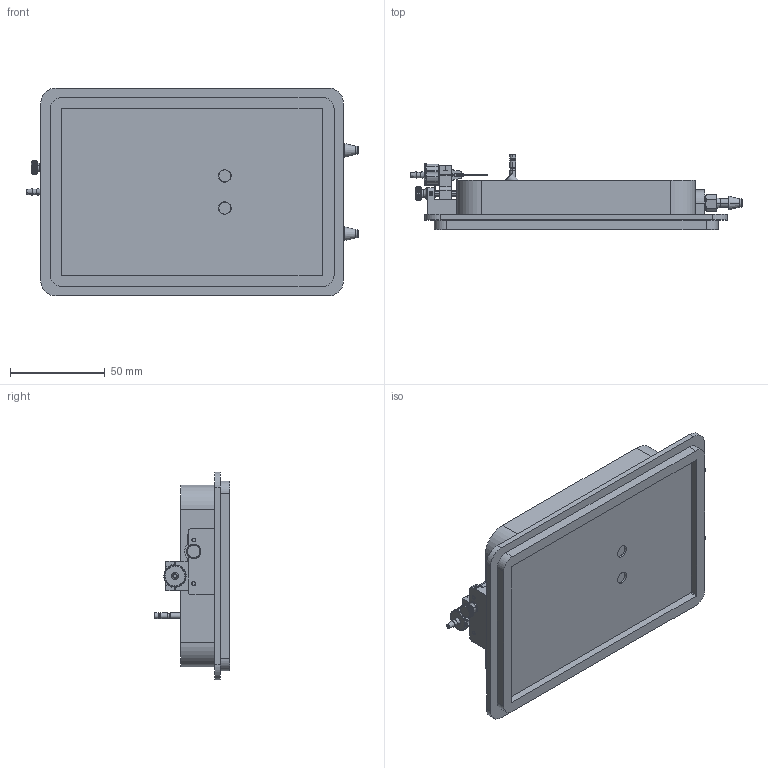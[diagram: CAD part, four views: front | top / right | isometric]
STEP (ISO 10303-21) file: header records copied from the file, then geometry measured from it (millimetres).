
FILE_DESCRIPTION (( 'STEP AP203' ), '1' );
FILE_NAME ('Fish Chamber Assembly With Tubing Adjustment Complete.STEP', '2026-08-06T16:56:48', ( '' ), ( '' ), 'SwSTEP 2.0', 'SolidWorks 2025', '' );
FILE_SCHEMA (( 'CONFIG_CONTROL_DESIGN' ));
Length unit declared in the file: millimetre
Products named in the file (16): blunt end needle; Fish Chamber Assembly With Tubing Adjustment Complete; Type K probe; 2974K369_Plastic Barbed Tube Fitting for Air and Water_2974K369; 99607A273_Stainless Steel Flared-Collar Knurled-Head Thumb Screw_99607A273; fish chamber RevE; 93600A233_316 Stainless Steel Dowel Pin_93600A233; 98407A114_Side-Mount External Retaining Rings_98407A114; part - M2 x 4mm cup point set screw - McMaster 92029A087_92029A087; socket head cap screw_ai_HX-SHCS 0.112-40x0.25x0.25-N; Qosina 65557; Fish Chamber; magnet; LMPagar_proto RS; fish fixture RevB; 98408A123_Side-Mount External Retaining Ring_98408A123
Assembly tree (22 placements, depth 3):
  Fish Chamber Assembly With Tubing Adjustment Complete
    Fish Chamber
      fish chamber RevE
      magnet  x2
    fish fixture RevB
      LMPagar_proto RS
      magnet  x2
    Type K probe
    2974K369_Plastic Barbed Tube Fitting for Air and Water_2974K369  x2
    blunt end needle
    Qosina 65557
    socket head cap screw_ai_HX-SHCS 0.112-40x0.25x0.25-N  x2
    99607A273_Stainless Steel Flared-Collar Knurled-Head Thumb Screw_99607A273
    93600A233_316 Stainless Steel Dowel Pin_93600A233  x2
    98408A123_Side-Mount External Retaining Ring_98408A123
    98407A114_Side-Mount External Retaining Rings_98407A114
    part - M2 x 4mm cup point set screw - McMaster 92029A087_92029A087  x2
Bounding box: 175.27 x 39.86 x 109.73 mm (x, y, z)
Volume: 123299.1 mm3; surface area: 77891.8 mm2
Topology: 22 solids, 22 shells, 2260 faces, 5448 edges, 3254 vertices
Faces by surface type: plane 1186, cylinder 844, cone 160, torus 45, bspline 23, sphere 2
Entity records: 72780 total; most frequent: CARTESIAN_POINT 28737, ORIENTED_EDGE 10260, DIRECTION 7415, EDGE_CURVE 5130, VERTEX_POINT 3070, AXIS2_PLACEMENT_3D 2827, EDGE_LOOP 2190, FACE_OUTER_BOUND 2122
